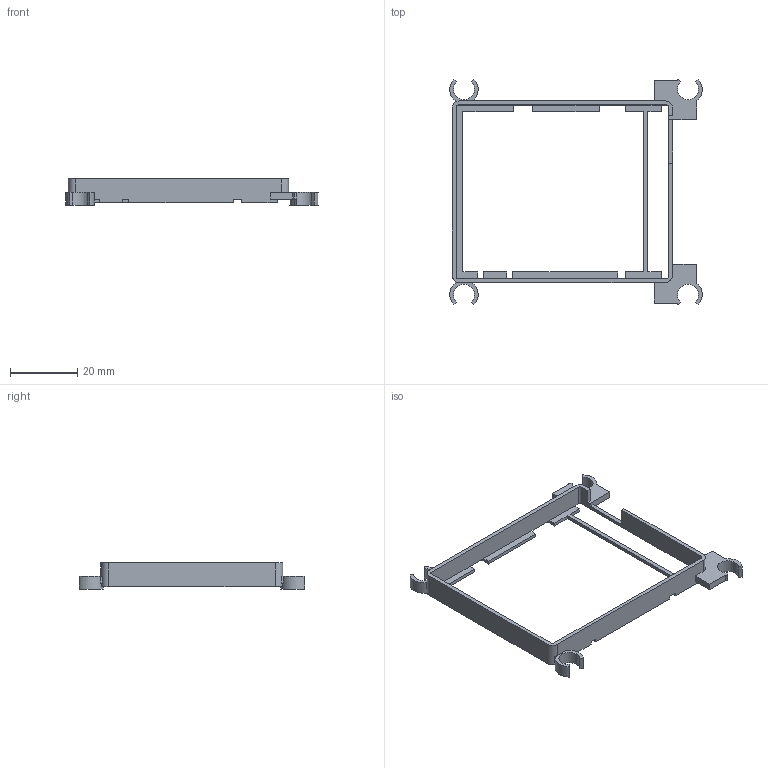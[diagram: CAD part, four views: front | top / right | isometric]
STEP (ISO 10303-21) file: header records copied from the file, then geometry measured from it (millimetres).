
FILE_DESCRIPTION(('Open CASCADE Model'),'2;1');
FILE_NAME('Open CASCADE Shape Model','2026-11-28T16:01:11',('Author'),( 'Open CASCADE'),'Open CASCADE STEP processor 8.0','build123d', 'Unknown');
FILE_SCHEMA(('AUTOMOTIVE_DESIGN { 1 0 10303 214 1 1 1 1 }'));
Length unit declared in the file: millimetre
Products named in the file (2): =>[0:1:1:2]; SOLID
Assembly tree (1 placements, depth 2):
  =>[0:1:1:2]
    SOLID
Bounding box: 74.88 x 66.84 x 7.85 mm (x, y, z)
Volume: 2699.8 mm3; surface area: 5311.2 mm2
Topology: 1 solids, 1 shells, 103 faces, 303 edges, 198 vertices
Faces by surface type: plane 86, cylinder 17
Entity records: 7232 total; most frequent: CARTESIAN_POINT 1679, DIRECTION 887, ORIENTED_EDGE 606, PCURVE 606, DEFINITIONAL_REPRESENTATION 606, LINE 564, VECTOR 564, EDGE_CURVE 303
